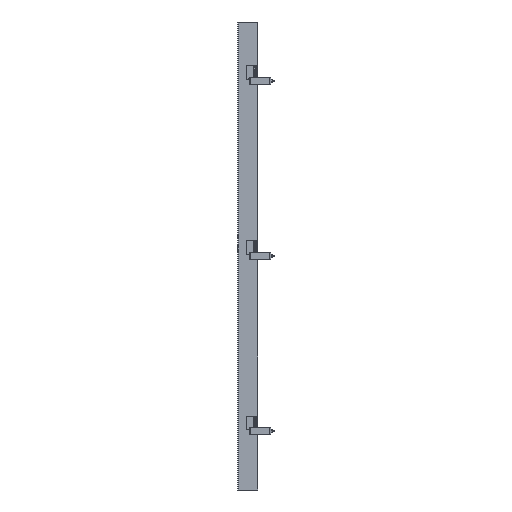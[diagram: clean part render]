
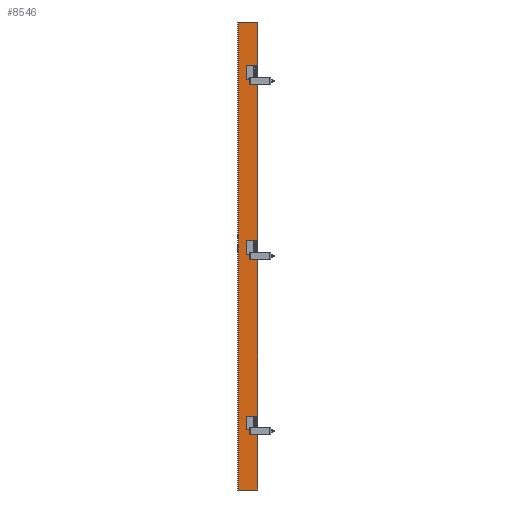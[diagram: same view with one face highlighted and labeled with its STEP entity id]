
A CAD part, left-side view. The second image highlights one B-rep face of the part: STEP entity #8546.
In plain terms, the highlighted planar face has unit normal (-1, 0, 0).
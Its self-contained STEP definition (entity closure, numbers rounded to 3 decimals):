
#1340=ORIENTED_EDGE('',*,*,#3848,.T.);
#1341=ORIENTED_EDGE('',*,*,#3849,.F.);
#1342=ORIENTED_EDGE('',*,*,#3850,.F.);
#1343=ORIENTED_EDGE('',*,*,#3851,.T.);
#1344=ORIENTED_EDGE('',*,*,#3852,.T.);
#1345=ORIENTED_EDGE('',*,*,#3853,.F.);
#1346=ORIENTED_EDGE('',*,*,#3854,.F.);
#1347=ORIENTED_EDGE('',*,*,#3855,.T.);
#1348=ORIENTED_EDGE('',*,*,#3856,.T.);
#1349=ORIENTED_EDGE('',*,*,#3857,.F.);
#1350=ORIENTED_EDGE('',*,*,#3858,.F.);
#1351=ORIENTED_EDGE('',*,*,#3859,.F.);
#1352=ORIENTED_EDGE('',*,*,#3860,.T.);
#1353=ORIENTED_EDGE('',*,*,#3861,.T.);
#1354=ORIENTED_EDGE('',*,*,#3862,.F.);
#1355=ORIENTED_EDGE('',*,*,#3863,.T.);
#3848=EDGE_CURVE('',#5085,#5086,#5914,.T.);
#3849=EDGE_CURVE('',#5087,#5086,#5915,.T.);
#3850=EDGE_CURVE('',#5088,#5087,#5916,.T.);
#3851=EDGE_CURVE('',#5088,#5089,#5917,.T.);
#3852=EDGE_CURVE('',#5089,#5090,#5918,.T.);
#3853=EDGE_CURVE('',#5091,#5090,#5919,.T.);
#3854=EDGE_CURVE('',#5092,#5091,#5920,.T.);
#3855=EDGE_CURVE('',#5092,#5093,#5921,.T.);
#3856=EDGE_CURVE('',#5093,#5094,#5922,.T.);
#3857=EDGE_CURVE('',#5095,#5094,#5923,.T.);
#3858=EDGE_CURVE('',#5096,#5095,#5924,.T.);
#3859=EDGE_CURVE('',#5097,#5096,#5925,.T.);
#3860=EDGE_CURVE('',#5097,#5098,#5926,.T.);
#3861=EDGE_CURVE('',#5098,#5099,#5927,.T.);
#3862=EDGE_CURVE('',#5100,#5099,#5928,.T.);
#3863=EDGE_CURVE('',#5100,#5085,#5929,.T.);
#5085=VERTEX_POINT('',#13532);
#5086=VERTEX_POINT('',#13533);
#5087=VERTEX_POINT('',#13535);
#5088=VERTEX_POINT('',#13537);
#5089=VERTEX_POINT('',#13539);
#5090=VERTEX_POINT('',#13541);
#5091=VERTEX_POINT('',#13543);
#5092=VERTEX_POINT('',#13545);
#5093=VERTEX_POINT('',#13547);
#5094=VERTEX_POINT('',#13549);
#5095=VERTEX_POINT('',#13551);
#5096=VERTEX_POINT('',#13553);
#5097=VERTEX_POINT('',#13555);
#5098=VERTEX_POINT('',#13557);
#5099=VERTEX_POINT('',#13559);
#5100=VERTEX_POINT('',#13561);
#5914=LINE('',#13531,#6534);
#5915=LINE('',#13534,#6535);
#5916=LINE('',#13536,#6536);
#5917=LINE('',#13538,#6537);
#5918=LINE('',#13540,#6538);
#5919=LINE('',#13542,#6539);
#5920=LINE('',#13544,#6540);
#5921=LINE('',#13546,#6541);
#5922=LINE('',#13548,#6542);
#5923=LINE('',#13550,#6543);
#5924=LINE('',#13552,#6544);
#5925=LINE('',#13554,#6545);
#5926=LINE('',#13556,#6546);
#5927=LINE('',#13558,#6547);
#5928=LINE('',#13560,#6548);
#5929=LINE('',#13562,#6549);
#6534=VECTOR('',#10734,1000.);
#6535=VECTOR('',#10735,1000.);
#6536=VECTOR('',#10736,1000.);
#6537=VECTOR('',#10737,1000.);
#6538=VECTOR('',#10738,1000.);
#6539=VECTOR('',#10739,1000.);
#6540=VECTOR('',#10740,1000.);
#6541=VECTOR('',#10741,1000.);
#6542=VECTOR('',#10742,1000.);
#6543=VECTOR('',#10743,1000.);
#6544=VECTOR('',#10744,1000.);
#6545=VECTOR('',#10745,1000.);
#6546=VECTOR('',#10746,1000.);
#6547=VECTOR('',#10747,1000.);
#6548=VECTOR('',#10748,1000.);
#6549=VECTOR('',#10749,1000.);
#7051=EDGE_LOOP('',(#1340,#1341,#1342,#1343,#1344,#1345,#1346,#1347,#1348,
#1349,#1350,#1351,#1352,#1353,#1354,#1355));
#7721=FACE_BOUND('',#7051,.T.);
#8361=PLANE('',#9457);
#8546=ADVANCED_FACE('',(#7721),#8361,.F.);
#9457=AXIS2_PLACEMENT_3D('',#13530,#10732,#10733);
#10732=DIRECTION('',(1.,0.,0.));
#10733=DIRECTION('',(0.,1.,0.));
#10734=DIRECTION('',(0.,0.,1.));
#10735=DIRECTION('',(0.,1.,0.));
#10736=DIRECTION('',(0.,0.,-1.));
#10737=DIRECTION('',(0.,1.,0.));
#10738=DIRECTION('',(0.,0.,1.));
#10739=DIRECTION('',(0.,1.,0.));
#10740=DIRECTION('',(0.,0.,-1.));
#10741=DIRECTION('',(0.,1.,0.));
#10742=DIRECTION('',(0.,0.,1.));
#10743=DIRECTION('',(0.,1.,0.));
#10744=DIRECTION('',(0.,0.,-1.));
#10745=DIRECTION('',(0.,-1.,0.));
#10746=DIRECTION('',(0.,0.,-1.));
#10747=DIRECTION('',(0.,-1.,0.));
#10748=DIRECTION('',(0.,0.,-1.));
#10749=DIRECTION('',(0.,1.,0.));
#13530=CARTESIAN_POINT('',(-14.,-7.5,576.5));
#13531=CARTESIAN_POINT('',(-14.,20.,-394.5));
#13532=CARTESIAN_POINT('',(-14.,20.,-428.5));
#13533=CARTESIAN_POINT('',(-14.,20.,-394.5));
#13534=CARTESIAN_POINT('',(-14.,-1154.38,-394.5));
#13535=CARTESIAN_POINT('',(-14.,-7.5,-394.5));
#13536=CARTESIAN_POINT('',(-14.,-7.5,576.5));
#13537=CARTESIAN_POINT('',(-14.,-7.5,3.));
#13538=CARTESIAN_POINT('',(-14.,-1154.38,3.));
#13539=CARTESIAN_POINT('',(-14.,20.,3.));
#13540=CARTESIAN_POINT('',(-14.,20.,37.));
#13541=CARTESIAN_POINT('',(-14.,20.,37.));
#13542=CARTESIAN_POINT('',(-14.,-1154.38,37.));
#13543=CARTESIAN_POINT('',(-14.,-7.5,37.));
#13544=CARTESIAN_POINT('',(-14.,-7.5,576.5));
#13545=CARTESIAN_POINT('',(-14.,-7.5,434.5));
#13546=CARTESIAN_POINT('',(-14.,-1154.38,434.5));
#13547=CARTESIAN_POINT('',(-14.,20.,434.5));
#13548=CARTESIAN_POINT('',(-14.,20.,468.5));
#13549=CARTESIAN_POINT('',(-14.,20.,468.5));
#13550=CARTESIAN_POINT('',(-14.,-1154.38,468.5));
#13551=CARTESIAN_POINT('',(-14.,-7.5,468.5));
#13552=CARTESIAN_POINT('',(-14.,-7.5,576.5));
#13553=CARTESIAN_POINT('',(-14.,-7.5,576.5));
#13554=CARTESIAN_POINT('',(-14.,-7.5,576.5));
#13555=CARTESIAN_POINT('',(-14.,40.5,576.5));
#13556=CARTESIAN_POINT('',(-14.,40.5,576.5));
#13557=CARTESIAN_POINT('',(-14.,40.5,-576.5));
#13558=CARTESIAN_POINT('',(-14.,-7.5,-576.5));
#13559=CARTESIAN_POINT('',(-14.,-7.5,-576.5));
#13560=CARTESIAN_POINT('',(-14.,-7.5,576.5));
#13561=CARTESIAN_POINT('',(-14.,-7.5,-428.5));
#13562=CARTESIAN_POINT('',(-14.,-1154.38,-428.5));
